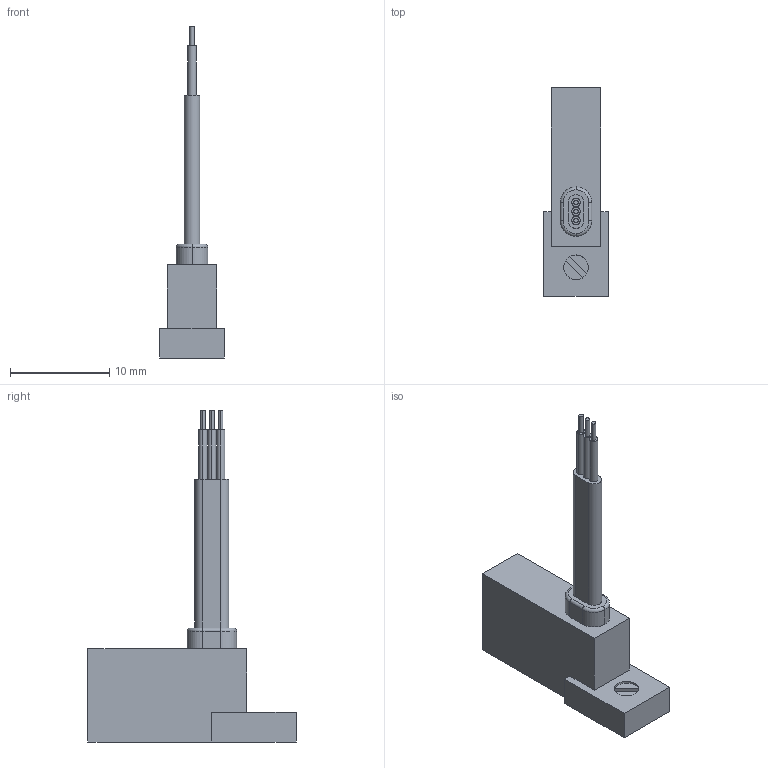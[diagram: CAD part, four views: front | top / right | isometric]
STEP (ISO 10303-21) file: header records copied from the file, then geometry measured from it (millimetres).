
FILE_DESCRIPTION (( 'STEP AP203' ), '1' );
FILE_NAME ('sc3m203-g.STEP', '2007-09-28T13:45:48', ( '' ), ( '' ), 'SwSTEP 2.0', 'SolidWorks 2007', '' );
FILE_SCHEMA (( 'CONFIG_CONTROL_DESIGN' ));
Length unit declared in the file: millimetre
Products named in the file (1): sc3m203-g
Bounding box: 6.5 x 21 x 33.5 mm (x, y, z)
Volume: 975.2 mm3; surface area: 878.1 mm2
Topology: 1 solids, 1 shells, 55 faces, 126 edges, 82 vertices
Faces by surface type: plane 29, cylinder 22, torus 4
Entity records: 1643 total; most frequent: DIRECTION 292, CARTESIAN_POINT 264, ORIENTED_EDGE 252, EDGE_CURVE 126, AXIS2_PLACEMENT_3D 110, VERTEX_POINT 82, VECTOR 72, LINE 72
